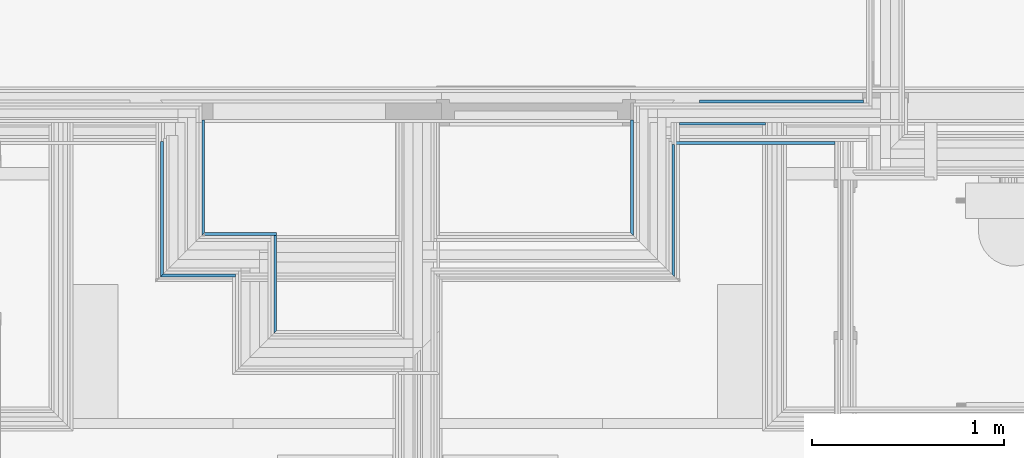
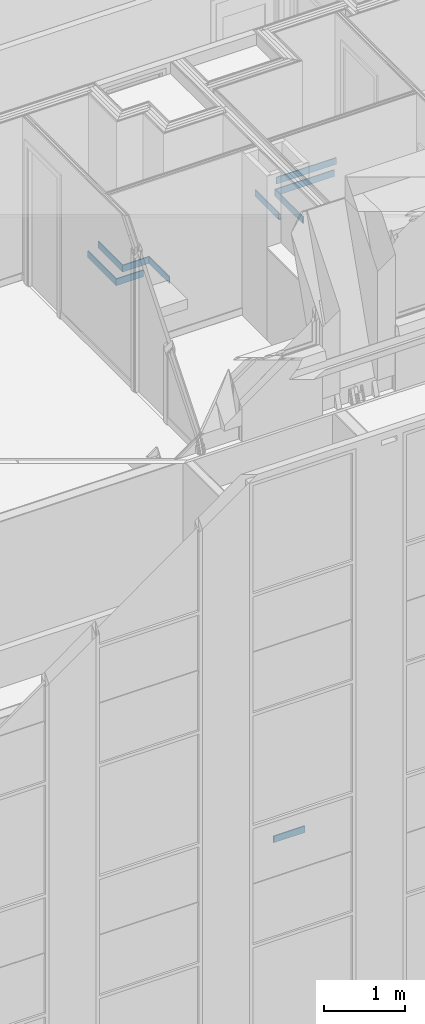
# One storey, part 55 of 169: 10 building element parts, 6 elements without a shape of their own.
"""IFC2X3 building model written with IfcOpenShell, lengths in metres."""

from ifc_helpers import new_model, entity, si_unit, converted_unit, derived_unit, money_unit, direction, frame, frame_2d, origin_with_axes, place, context, subcontext, project, spatial, polyline, rectangle, outline, extrude, material, type_object, element, aggregate, save


model = new_model("IFC2X3")

# Units and contexts
model_context = context("Model", 3, precision=1e-05, world=origin_with_axes(), true_north=direction((0.0, 1.0)))
body_context = subcontext(model_context, "Body", "Model", "MODEL_VIEW", scale=1.0)
ifc_project = project(units=[si_unit("LENGTHUNIT", "METRE"), si_unit("AREAUNIT", "SQUARE_METRE"), si_unit("VOLUMEUNIT", "CUBIC_METRE"), si_unit("ABSORBEDDOSEUNIT", "GRAY"), si_unit("AMOUNTOFSUBSTANCEUNIT", "MOLE"), si_unit("DOSEEQUIVALENTUNIT", "SIEVERT"), si_unit("ELECTRICCAPACITANCEUNIT", "FARAD"), si_unit("ELECTRICCHARGEUNIT", "COULOMB"), si_unit("ELECTRICCONDUCTANCEUNIT", "SIEMENS"), si_unit("ELECTRICCURRENTUNIT", "AMPERE"), si_unit("ELECTRICRESISTANCEUNIT", "OHM"), si_unit("ELECTRICVOLTAGEUNIT", "VOLT"), si_unit("ENERGYUNIT", "JOULE"), si_unit("FORCEUNIT", "NEWTON"), si_unit("FREQUENCYUNIT", "HERTZ"), si_unit("ILLUMINANCEUNIT", "LUX"), si_unit("INDUCTANCEUNIT", "HENRY"), si_unit("LUMINOUSFLUXUNIT", "LUMEN"), si_unit("LUMINOUSINTENSITYUNIT", "CANDELA"), si_unit("MAGNETICFLUXDENSITYUNIT", "TESLA"), si_unit("MAGNETICFLUXUNIT", "WEBER"), si_unit("MASSUNIT", "GRAM"), converted_unit("PLANEANGLEUNIT", "degree", entity("IfcReal", 0.0174532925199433), si_unit("PLANEANGLEUNIT", "RADIAN"), dimensions=[0, 0, 0, 0, 0, 0, 0]), si_unit("POWERUNIT", "WATT"), si_unit("PRESSUREUNIT", "PASCAL"), si_unit("RADIOACTIVITYUNIT", "BECQUEREL"), si_unit("SOLIDANGLEUNIT", "STERADIAN"), si_unit("THERMODYNAMICTEMPERATUREUNIT", "KELVIN"), si_unit("TIMEUNIT", "SECOND"), derived_unit("ACCELERATIONUNIT", [(si_unit("LENGTHUNIT", "METRE"), 1), (si_unit("TIMEUNIT", "SECOND"), -2)]), derived_unit("ANGULARVELOCITYUNIT", [(converted_unit("PLANEANGLEUNIT", "degree", entity("IfcReal", 0.0174532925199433), si_unit("PLANEANGLEUNIT", "RADIAN"), dimensions=[0, 0, 0, 0, 0, 0, 0]), 1), (si_unit("TIMEUNIT", "SECOND"), -1)]), derived_unit("CURVATUREUNIT", [(converted_unit("PLANEANGLEUNIT", "degree", entity("IfcReal", 0.0174532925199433), si_unit("PLANEANGLEUNIT", "RADIAN"), dimensions=[0, 0, 0, 0, 0, 0, 0]), 1), (si_unit("LENGTHUNIT", "METRE"), -1)]), derived_unit("DYNAMICVISCOSITYUNIT", [(si_unit("PRESSUREUNIT", "PASCAL"), 1), (si_unit("TIMEUNIT", "SECOND"), 1)]), derived_unit("HEATFLUXDENSITYUNIT", [(si_unit("POWERUNIT", "WATT"), 1), (si_unit("LENGTHUNIT", "METRE"), -2)]), derived_unit("HEATINGVALUEUNIT", [(si_unit("ENERGYUNIT", "JOULE"), 1), (si_unit("MASSUNIT", "GRAM"), -1)]), derived_unit("INTEGERCOUNTRATEUNIT", [(si_unit("TIMEUNIT", "SECOND"), -1)]), derived_unit("IONCONCENTRATIONUNIT", [(si_unit("MASSUNIT", "GRAM"), 1), (si_unit("VOLUMEUNIT", "CUBIC_METRE"), -1)]), derived_unit("ISOTHERMALMOISTURECAPACITYUNIT", [(si_unit("VOLUMEUNIT", "CUBIC_METRE"), 1), (si_unit("MASSUNIT", "GRAM"), -1)]), derived_unit("KINEMATICVISCOSITYUNIT", [(si_unit("AREAUNIT", "SQUARE_METRE"), 1), (si_unit("TIMEUNIT", "SECOND"), -1)]), derived_unit("LINEARFORCEUNIT", [(si_unit("FORCEUNIT", "NEWTON"), 1), (si_unit("LENGTHUNIT", "METRE"), -1)]), derived_unit("LINEARMOMENTUNIT", [(si_unit("FORCEUNIT", "NEWTON"), 1), (si_unit("LENGTHUNIT", "METRE"), -1)]), derived_unit("LINEARSTIFFNESSUNIT", [(si_unit("FORCEUNIT", "NEWTON"), 1), (si_unit("LENGTHUNIT", "METRE"), -1)]), derived_unit("LINEARVELOCITYUNIT", [(si_unit("LENGTHUNIT", "METRE"), 1), (si_unit("TIMEUNIT", "SECOND"), -1)]), derived_unit("LUMINOUSINTENSITYDISTRIBUTIONUNIT", [(si_unit("LUMINOUSINTENSITYUNIT", "CANDELA"), 1), (si_unit("LUMINOUSFLUXUNIT", "LUMEN"), -1)]), derived_unit("MASSDENSITYUNIT", [(si_unit("MASSUNIT", "GRAM"), 1), (si_unit("VOLUMEUNIT", "CUBIC_METRE"), -1)]), derived_unit("MASSFLOWRATEUNIT", [(si_unit("MASSUNIT", "GRAM"), 1), (si_unit("TIMEUNIT", "SECOND"), -1)]), derived_unit("MASSPERLENGTHUNIT", [(si_unit("MASSUNIT", "GRAM"), 1), (si_unit("LENGTHUNIT", "METRE"), -1)]), derived_unit("MODULUSOFELASTICITYUNIT", [(si_unit("FORCEUNIT", "NEWTON"), 1), (si_unit("AREAUNIT", "SQUARE_METRE"), -1)]), derived_unit("MODULUSOFLINEARSUBGRADEREACTIONUNIT", [(si_unit("FORCEUNIT", "NEWTON"), 1), (si_unit("LENGTHUNIT", "METRE"), -2)]), derived_unit("MODULUSOFROTATIONALSUBGRADEREACTIONUNIT", [(si_unit("FORCEUNIT", "NEWTON"), 1), (si_unit("LENGTHUNIT", "METRE"), 1)]), derived_unit("MODULUSOFSUBGRADEREACTIONUNIT", [(si_unit("FORCEUNIT", "NEWTON"), 1), (si_unit("VOLUMEUNIT", "CUBIC_METRE"), -1)]), derived_unit("MOISTUREDIFFUSIVITYUNIT", [(si_unit("VOLUMEUNIT", "CUBIC_METRE"), 1), (si_unit("TIMEUNIT", "SECOND"), -1)]), derived_unit("MOLECULARWEIGHTUNIT", [(si_unit("MASSUNIT", "GRAM"), 1), (si_unit("AMOUNTOFSUBSTANCEUNIT", "MOLE"), -1)]), derived_unit("PLANARFORCEUNIT", [(si_unit("FORCEUNIT", "NEWTON"), 1), (si_unit("LENGTHUNIT", "METRE"), -2)]), derived_unit("ROTATIONALFREQUENCYUNIT", [(si_unit("TIMEUNIT", "SECOND"), -1)]), derived_unit("ROTATIONALMASSUNIT", [(si_unit("MASSUNIT", "GRAM"), 1), (si_unit("LENGTHUNIT", "METRE"), 2)]), derived_unit("ROTATIONALSTIFFNESSUNIT", [(si_unit("FORCEUNIT", "NEWTON"), 1), (si_unit("LENGTHUNIT", "METRE"), 1), (converted_unit("PLANEANGLEUNIT", "degree", entity("IfcReal", 0.0174532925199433), si_unit("PLANEANGLEUNIT", "RADIAN"), dimensions=[0, 0, 0, 0, 0, 0, 0]), -1)]), derived_unit("SECTIONAREAINTEGRALUNIT", [(si_unit("LENGTHUNIT", "METRE"), 5)]), derived_unit("SECTIONMODULUSUNIT", [(si_unit("LENGTHUNIT", "METRE"), 3)]), derived_unit("SHEARMODULUSUNIT", [(si_unit("FORCEUNIT", "NEWTON"), 1), (si_unit("AREAUNIT", "SQUARE_METRE"), -1)]), derived_unit("SOUNDPOWERUNIT", [(si_unit("ENERGYUNIT", "JOULE"), 1), (si_unit("TIMEUNIT", "SECOND"), -1)]), derived_unit("SPECIFICHEATCAPACITYUNIT", [(si_unit("FORCEUNIT", "NEWTON"), 1), (si_unit("MASSUNIT", "GRAM"), -1), (si_unit("THERMODYNAMICTEMPERATUREUNIT", "KELVIN"), -1)]), derived_unit("TEMPERATUREGRADIENTUNIT", [(si_unit("THERMODYNAMICTEMPERATUREUNIT", "KELVIN"), 1), (si_unit("LENGTHUNIT", "METRE"), -1)]), derived_unit("THERMALADMITTANCEUNIT", [(si_unit("POWERUNIT", "WATT"), 1), (si_unit("AREAUNIT", "SQUARE_METRE"), -1), (si_unit("THERMODYNAMICTEMPERATUREUNIT", "KELVIN"), -1)]), derived_unit("THERMALCONDUCTANCEUNIT", [(si_unit("POWERUNIT", "WATT"), 1), (si_unit("LENGTHUNIT", "METRE"), -1), (si_unit("THERMODYNAMICTEMPERATUREUNIT", "KELVIN"), -1)]), derived_unit("THERMALEXPANSIONCOEFFICIENTUNIT", [(si_unit("THERMODYNAMICTEMPERATUREUNIT", "KELVIN"), -1)]), derived_unit("THERMALRESISTANCEUNIT", [(si_unit("AREAUNIT", "SQUARE_METRE"), 1), (si_unit("POWERUNIT", "WATT"), -1)]), derived_unit("THERMALTRANSMITTANCEUNIT", [(si_unit("POWERUNIT", "WATT"), 1), (si_unit("AREAUNIT", "SQUARE_METRE"), -1), (si_unit("THERMODYNAMICTEMPERATUREUNIT", "KELVIN"), -1)]), derived_unit("TORQUEUNIT", [(si_unit("FORCEUNIT", "NEWTON"), 1), (si_unit("LENGTHUNIT", "METRE"), 1)]), derived_unit("VAPORPERMEABILITYUNIT", [(si_unit("MASSUNIT", "GRAM"), 1), (si_unit("TIMEUNIT", "SECOND"), -1)]), derived_unit("VOLUMETRICFLOWRATEUNIT", [(si_unit("VOLUMEUNIT", "CUBIC_METRE"), 1), (si_unit("TIMEUNIT", "SECOND"), -1)]), derived_unit("WARPINGCONSTANTUNIT", [(si_unit("LENGTHUNIT", "METRE"), 6)]), derived_unit("WARPINGMOMENTUNIT", [(si_unit("FORCEUNIT", "NEWTON"), 1), (si_unit("LENGTHUNIT", "METRE"), 2)]), money_unit("GBP")], contexts=[model_context])

# Site, building, storey
site_placement = place(None, origin_with_axes())
site = spatial("IfcSite", under=ifc_project, at=site_placement, Name="Site", CompositionType="ELEMENT")
building_placement = place(site_placement, origin_with_axes())
building = spatial("IfcBuilding", under=site, at=building_placement, Name="Building01", CompositionType="ELEMENT")
storey_placement = place(building_placement, frame((0.0, 0.0, 5.15), z_axis=(0.0, 0.0, 1.0), x_axis=(1.0, 0.0, 0.0)))
storey = spatial("IfcBuildingStorey", under=building, at=storey_placement, Name="1F", CompositionType="ELEMENT", Elevation=5.15)

# Wall, building element part
wall_type_1 = type_object("IfcWallType", Name="SHE_A-Walls_Type03a_BlockworkWall_170mm", PredefinedType="NOTDEFINED")
wall_1_placement = place(storey_placement, frame((9.215, 4.995, 0.0), z_axis=(0.0, 0.0, 1.0), x_axis=(1.0, 0.0, 0.0)))
wall_1 = element("IfcWall", 1, at=wall_1_placement, inside=storey, type_object=wall_type_1, Name="4B", ObjectType="SHE_A-Walls_Type03a_BlockworkWall_170mm")
ifc_material = material(Name="A_BSUK_Walls_Timber")
building_element_part_1_placement = place(wall_1_placement, origin_with_axes())
building_element_part_1 = element("IfcBuildingElementPart", 2, at=building_element_part_1_placement, material=ifc_material, Name="2", context=body_context, shape_type="SweptSolid", body=[
    extrude(rectangle(XDim=0.4475, YDim=0.015, at=frame_2d((5.87375, -0.0225), x_axis=(-1.0, 0.0))), frame((0.0, 0.0, 0.015), z_axis=(0.0, 0.0, 1.0), x_axis=(1.0, 0.0, 0.0)), (0.0, 0.0, 1.0), 0.1),
])
aggregate(wall_1, [building_element_part_1])

# Wall, building element parts
wall_type_2 = type_object("IfcWallType", Name="SHE_A-Walls_Type01d_Partywall_200mm_twin", PredefinedType="NOTDEFINED")
wall_2_placement = place(storey_placement, frame((12.25, 5.005, 9.83), z_axis=(0.0, 0.0, 1.0), x_axis=(0.0, -1.0, 0.0)))
wall_2 = element("IfcWall", 3, at=wall_2_placement, inside=storey, type_object=wall_type_2, Name="1D", ObjectType="SHE_A-Walls_Type01d_Partywall_200mm_twin")
placement_1 = place(wall_2_placement, origin_with_axes())
building_element_part_2 = element("IfcBuildingElementPart", 4, at=placement_1, material=ifc_material, Name="1", context=body_context, shape_type="SweptSolid", body=[
    extrude(outline(polyline([(0.815572, -0.075), (0.125, -0.075), (0.125, -0.09), (0.830572, -0.09), (0.815572, -0.075)])), frame((0.0, 0.0, 0.015), z_axis=(0.0, 0.0, 1.0), x_axis=(1.0, 0.0, 0.0)), (0.0, 0.0, 1.0), 0.1),
])
building_element_part_3 = element("IfcBuildingElementPart", 5, at=placement_1, material=ifc_material, Name="9", context=body_context, shape_type="SweptSolid", body=[
    extrude(outline(polyline([(0.600572, 0.14), (0.012, 0.14), (0.012, 0.125), (0.615572, 0.125), (0.600572, 0.14)])), frame((0.0, 0.0, 0.015), z_axis=(0.0, 0.0, 1.0), x_axis=(1.0, 0.0, 0.0)), (0.0, 0.0, 1.0), 0.1),
])
aggregate(wall_2, [building_element_part_2, building_element_part_3])

wall_3_placement = place(storey_placement, frame((14.7, 5.005, 9.83), z_axis=(0.0, 0.0, 1.0), x_axis=(0.0, -1.0, 0.0)))
wall_3 = element("IfcWall", 6, at=wall_3_placement, inside=storey, type_object=wall_type_2, Name="1D", ObjectType="SHE_A-Walls_Type01d_Partywall_200mm_twin")
placement_2 = place(wall_3_placement, origin_with_axes())
building_element_part_4 = element("IfcBuildingElementPart", 7, at=placement_2, material=ifc_material, Name="1", context=body_context, shape_type="SweptSolid", body=[
    extrude(outline(polyline([(0.615572, -0.075), (0.012, -0.075), (0.012, -0.09), (0.600572, -0.09), (0.615572, -0.075)])), frame((0.0, 0.0, 0.015), z_axis=(0.0, 0.0, 1.0), x_axis=(1.0, 0.0, 0.0)), (0.0, 0.0, 1.0), 0.1),
])
building_element_part_5 = element("IfcBuildingElementPart", 8, at=placement_2, material=ifc_material, Name="9", context=body_context, shape_type="SweptSolid", body=[
    extrude(outline(polyline([(0.830572, 0.14), (0.14, 0.14), (0.14, 0.125), (0.815572, 0.125), (0.830572, 0.14)])), frame((0.0, 0.0, 0.015), z_axis=(0.0, 0.0, 1.0), x_axis=(1.0, 0.0, 0.0)), (0.0, 0.0, 1.0), 0.1),
])
aggregate(wall_3, [building_element_part_4, building_element_part_5])

# Wall, building element part
wall_4_placement = place(storey_placement, frame((12.65, 4.264428, 9.83), z_axis=(0.0, 0.0, 1.0), x_axis=(0.0, -1.0, 0.0)))
wall_4 = element("IfcWall", 9, at=wall_4_placement, inside=storey, type_object=wall_type_2, Name="1D", ObjectType="SHE_A-Walls_Type01d_Partywall_200mm_twin")
building_element_part_6_placement = place(wall_4_placement, origin_with_axes())
building_element_part_6 = element("IfcBuildingElementPart", 10, at=building_element_part_6_placement, material=ifc_material, Name="9", context=body_context, shape_type="SweptSolid", body=[
    extrude(outline(polyline([(0.369428, 0.115), (-0.125, 0.115), (-0.125, 0.1), (0.384428, 0.1), (0.369428, 0.115)])), frame((0.0, 0.0, 0.015), z_axis=(0.0, 0.0, 1.0), x_axis=(1.0, 0.0, 0.0)), (0.0, 0.0, 1.0), 0.1),
])
aggregate(wall_4, [building_element_part_6])

# Wall, building element parts
wall_5_placement = place(storey_placement, frame((14.7, 4.314428, 9.83), z_axis=(0.0, 0.0, 1.0), x_axis=(-1.0, 0.0, 0.0)))
wall_5 = element("IfcWall", 11, at=wall_5_placement, inside=storey, type_object=wall_type_2, Name="1D", ObjectType="SHE_A-Walls_Type01d_Partywall_200mm_twin")
placement_3 = place(wall_5_placement, origin_with_axes())
building_element_part_7 = element("IfcBuildingElementPart", 12, at=placement_3, material=ifc_material, Name="2", context=body_context, shape_type="SweptSolid", body=[
    extrude(outline(polyline([(2.325, -0.075), (1.935, -0.075), (1.935, -0.09), (2.31, -0.09), (2.325, -0.075)])), frame((0.0, 0.0, 0.015), z_axis=(0.0, 0.0, 1.0), x_axis=(1.0, 0.0, 0.0)), (0.0, 0.0, 1.0), 0.1),
])
building_element_part_8 = element("IfcBuildingElementPart", 13, at=placement_3, material=ifc_material, Name="16", context=body_context, shape_type="SweptSolid", body=[
    extrude(outline(polyline([(2.54, 0.14), (2.15, 0.14), (2.15, 0.125), (2.525, 0.125), (2.54, 0.14)])), frame((0.0, 0.0, 0.015), z_axis=(0.0, 0.0, 1.0), x_axis=(1.0, 0.0, 0.0)), (0.0, 0.0, 1.0), 0.1),
])
aggregate(wall_5, [building_element_part_7, building_element_part_8])

wall_6_placement = place(storey_placement, frame((14.75, 4.955, 9.83), z_axis=(0.0, 0.0, 1.0), x_axis=(1.0, 0.0, 0.0)))
wall_6 = element("IfcWall", 14, at=wall_6_placement, inside=storey, type_object=wall_type_2, Name="1D", ObjectType="SHE_A-Walls_Type01d_Partywall_200mm_twin")
placement_4 = place(wall_6_placement, origin_with_axes())
building_element_part_9 = element("IfcBuildingElementPart", 15, at=placement_4, material=ifc_material, Name="1", context=body_context, shape_type="SweptSolid", body=[
    extrude(rectangle(XDim=0.85, YDim=0.015, at=frame_2d((0.5, -0.0825), x_axis=(-1.0, 0.0))), frame((0.0, 0.0, 0.015), z_axis=(0.0, 0.0, 1.0), x_axis=(1.0, 0.0, 0.0)), (0.0, 0.0, 1.0), 0.1),
])
building_element_part_10 = element("IfcBuildingElementPart", 16, at=placement_4, material=ifc_material, Name="9", context=body_context, shape_type="SweptSolid", body=[
    extrude(rectangle(XDim=0.854891, YDim=0.015, at=frame_2d((0.645994, 0.1325), x_axis=(-1.0, 0.0))), frame((0.0, 0.0, 0.015), z_axis=(0.0, 0.0, 1.0), x_axis=(1.0, 0.0, 0.0)), (0.0, 0.0, 1.0), 0.1),
])
aggregate(wall_6, [building_element_part_9, building_element_part_10])

save(model, "model.ifc")
